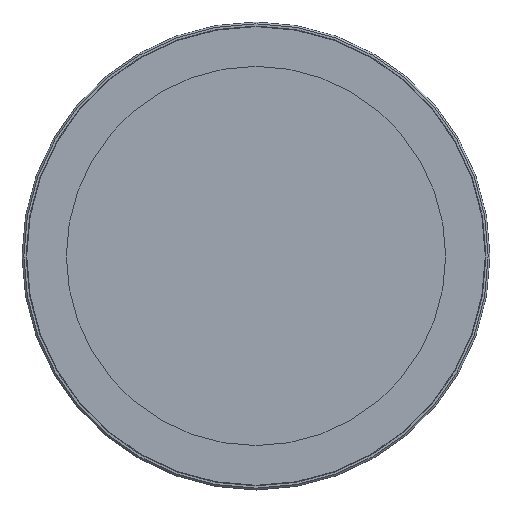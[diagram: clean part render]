
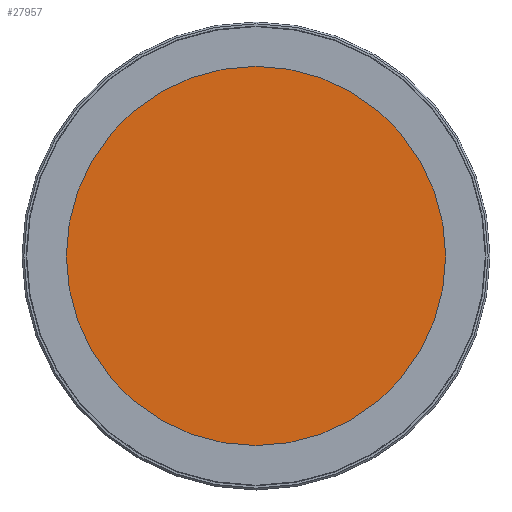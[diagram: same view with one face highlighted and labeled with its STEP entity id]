
A CAD part, top view. The second image highlights one B-rep face of the part: STEP entity #27957.
In plain terms, the highlighted planar face has unit normal (0, 0, 1).
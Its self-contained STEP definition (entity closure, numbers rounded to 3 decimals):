
#8361=CARTESIAN_POINT('',(0.,0.,3.58));
#8362=DIRECTION('',(0.,0.,-1.));
#8363=DIRECTION('',(1.,0.,0.));
#8364=AXIS2_PLACEMENT_3D('',#8361,#8362,#8363);
#8366=CARTESIAN_POINT('',(0.,0.,3.58));
#8367=DIRECTION('',(0.,0.,-1.));
#8368=DIRECTION('',(-1.,0.,0.));
#8369=AXIS2_PLACEMENT_3D('',#8366,#8367,#8368);
#8905=CARTESIAN_POINT('',(-51.06,0.,3.58));
#8906=VERTEX_POINT('',#8905);
#8907=CARTESIAN_POINT('',(51.06,0.,3.58));
#8908=VERTEX_POINT('',#8907);
#27947=CARTESIAN_POINT('',(0.,0.,3.58));
#27948=DIRECTION('',(0.,0.,1.));
#27949=DIRECTION('',(-1.,0.,0.));
#27950=AXIS2_PLACEMENT_3D('',#27947,#27948,#27949);
#27951=PLANE('',#27950);
#27952=ORIENTED_EDGE('',*,*,#27930,.T.);
#27954=ORIENTED_EDGE('',*,*,#27953,.T.);
#27955=EDGE_LOOP('',(#27952,#27954));
#27956=FACE_OUTER_BOUND('',#27955,.F.);
#27957=ADVANCED_FACE('',(#27956),#27951,.T.);
#8365=CIRCLE('',#8364,51.06);
#8370=CIRCLE('',#8369,51.06);
#27930=EDGE_CURVE('',#8908,#8906,#8365,.T.);
#27953=EDGE_CURVE('',#8906,#8908,#8370,.T.);
